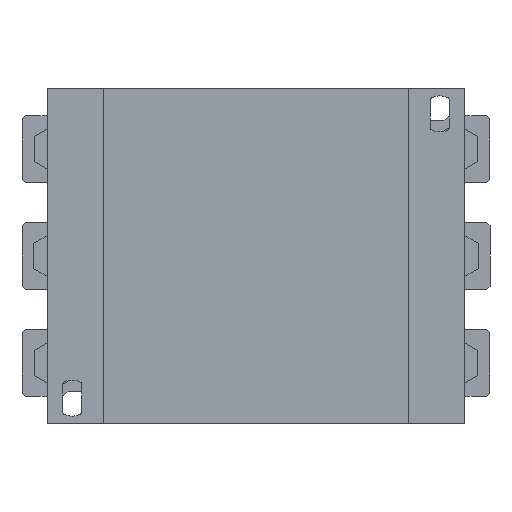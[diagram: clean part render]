
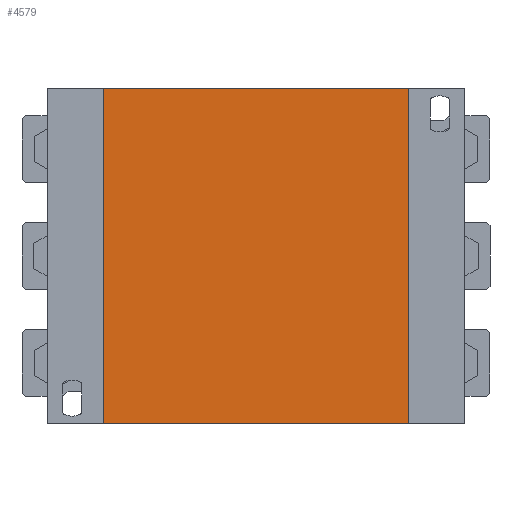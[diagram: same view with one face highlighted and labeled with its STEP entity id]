
A CAD part, left-side view. The second image highlights one B-rep face of the part: STEP entity #4579.
In plain terms, the highlighted planar face has unit normal (-1, 0, 0).
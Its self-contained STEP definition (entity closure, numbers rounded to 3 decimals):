
#2363 = EDGE_CURVE( '', #3995, #2893, #6717, .T. );
#2531 = EDGE_CURVE( '', #2893, #4499, #6901, .T. );
#2863 = EDGE_CURVE( '', #3995, #4147, #7262, .T. );
#2893 = VERTEX_POINT( '', #7295 );
#3995 = VERTEX_POINT( '', #8517 );
#4147 = VERTEX_POINT( '', #8682 );
#4443 = EDGE_CURVE( '', #4147, #4499, #9018, .T. );
#4499 = VERTEX_POINT( '', #9080 );
#4579 = ADVANCED_FACE( '', ( #9163 ), #9164, .T. );
#6717 = LINE( '', #11543, #11544 );
#6901 = LINE( '', #11807, #11808 );
#7262 = LINE( '', #12317, #12318 );
#7295 = CARTESIAN_POINT( '', ( -137.5, 45.5, -50. ) );
#8517 = CARTESIAN_POINT( '', ( -137.5, 45.5, 50. ) );
#8682 = CARTESIAN_POINT( '', ( -137.5, -45.5, 50. ) );
#9018 = LINE( '', #14760, #14761 );
#9080 = CARTESIAN_POINT( '', ( -137.5, -45.5, -50. ) );
#9163 = FACE_OUTER_BOUND( '', #14964, .T. );
#9164 = PLANE( '', #14965 );
#11543 = CARTESIAN_POINT( '', ( -137.5, 45.5, 50. ) );
#11544 = VECTOR( '', #18131, 1. );
#11807 = CARTESIAN_POINT( '', ( -137.5, 45.5, -50. ) );
#11808 = VECTOR( '', #18308, 1. );
#12317 = CARTESIAN_POINT( '', ( -137.5, 45.5, 50. ) );
#12318 = VECTOR( '', #18660, 1. );
#14760 = CARTESIAN_POINT( '', ( -137.5, -45.5, 50. ) );
#14761 = VECTOR( '', #20689, 1. );
#14964 = EDGE_LOOP( '', ( #20817, #20818, #20819, #20820 ) );
#14965 = AXIS2_PLACEMENT_3D( '', #20821, #20822, #20823 );
#18131 = DIRECTION( '', ( 0., 0., -1. ) );
#18308 = DIRECTION( '', ( 0., -1., 0. ) );
#18660 = DIRECTION( '', ( 0., -1., 0. ) );
#20689 = DIRECTION( '', ( 0., 0., -1. ) );
#20817 = ORIENTED_EDGE( '', *, *, #2531, .T. );
#20818 = ORIENTED_EDGE( '', *, *, #4443, .F. );
#20819 = ORIENTED_EDGE( '', *, *, #2863, .F. );
#20820 = ORIENTED_EDGE( '', *, *, #2363, .T. );
#20821 = CARTESIAN_POINT( '', ( -137.5, 45.5, 50. ) );
#20822 = DIRECTION( '', ( -1., 0., 0. ) );
#20823 = DIRECTION( '', ( 0., 1., 0. ) );
